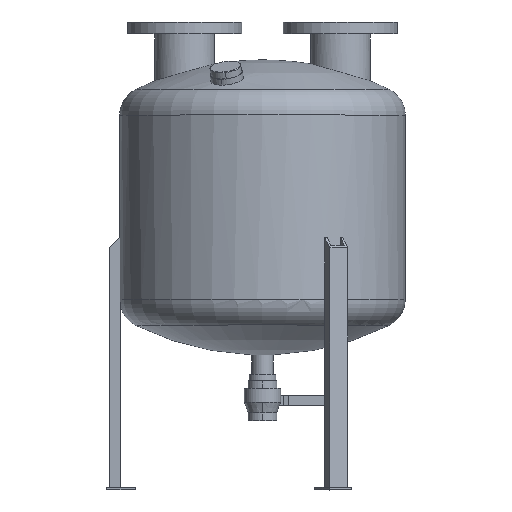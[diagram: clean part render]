
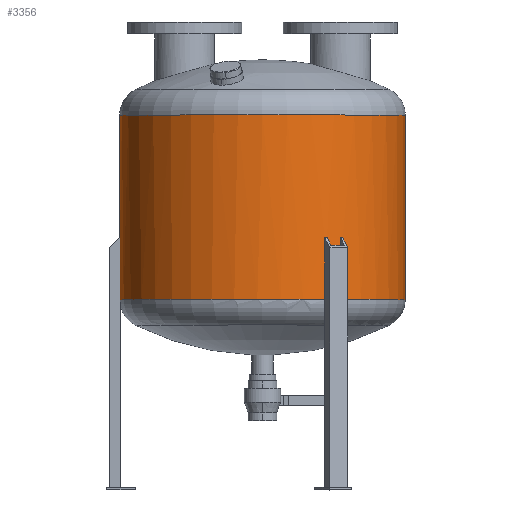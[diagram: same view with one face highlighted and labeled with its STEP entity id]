
A CAD part, top view. The second image highlights one B-rep face of the part: STEP entity #3356.
In plain terms, the highlighted cylindrical face has radius 275 mm (diameter 550 mm), a partial arc.
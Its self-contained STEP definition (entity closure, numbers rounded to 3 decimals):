
#41=CARTESIAN_POINT('',(154.456,366.194,227.526));
#48=CARTESIAN_POINT('',(-274.591,366.194,15.));
#63=CARTESIAN_POINT('',(119.815,366.194,247.526));
#76=CARTESIAN_POINT('',(124.305,366.194,245.302));
#78=CARTESIAN_POINT('',(150.286,366.194,230.302));
#84=CARTESIAN_POINT('',(0.,485.,0.));
#85=DIRECTION('',(0.,-1.,0.));
#86=DIRECTION('',(0.562,0.,0.827));
#87=AXIS2_PLACEMENT_3D('',#84,#85,#86);
#89=CARTESIAN_POINT('',(0.,366.194,0.));
#90=DIRECTION('',(0.,-1.,0.));
#91=DIRECTION('',(0.546,0.,0.837));
#92=AXIS2_PLACEMENT_3D('',#89,#90,#91);
#94=CARTESIAN_POINT('',(0.,485.,0.));
#95=DIRECTION('',(0.,-1.,0.));
#96=DIRECTION('',(0.452,0.,0.892));
#97=AXIS2_PLACEMENT_3D('',#94,#95,#96);
#99=CARTESIAN_POINT('',(0.,366.194,0.));
#100=DIRECTION('',(0.,-1.,0.));
#101=DIRECTION('',(0.436,0.,0.9));
#102=AXIS2_PLACEMENT_3D('',#99,#100,#101);
#104=CARTESIAN_POINT('',(0.,485.,0.));
#105=DIRECTION('',(0.,-1.,0.));
#106=DIRECTION('',(-0.997,0.,0.073));
#107=AXIS2_PLACEMENT_3D('',#104,#105,#106);
#109=CARTESIAN_POINT('',(0.,366.194,0.));
#110=DIRECTION('',(0.,-1.,0.));
#111=DIRECTION('',(-0.999,0.,0.055));
#112=AXIS2_PLACEMENT_3D('',#109,#110,#111);
#114=CARTESIAN_POINT('',(0.,366.194,0.));
#115=DIRECTION('',(0.,-1.,0.));
#116=DIRECTION('',(1.,0.,0.));
#117=AXIS2_PLACEMENT_3D('',#114,#115,#116);
#119=CARTESIAN_POINT('',(0.,721.424,0.));
#120=DIRECTION('',(0.,-1.,0.));
#121=DIRECTION('',(1.,0.,0.));
#122=AXIS2_PLACEMENT_3D('',#119,#120,#121);
#404=DIRECTION('',(0.,1.,0.));
#405=VECTOR('',#404,355.231);
#406=CARTESIAN_POINT('',(275.,366.194,0.));
#407=LINE('',#406,#405);
#408=DIRECTION('',(0.,1.,0.));
#409=VECTOR('',#408,355.231);
#410=CARTESIAN_POINT('',(-275.,366.194,0.));
#411=LINE('',#410,#409);
#1290=DIRECTION('',(0.,-1.,0.));
#1291=VECTOR('',#1290,118.806);
#1292=CARTESIAN_POINT('',(-274.272,485.,20.));
#1293=LINE('',#1292,#1291);
#1322=DIRECTION('',(0.,-1.,0.));
#1323=VECTOR('',#1322,118.806);
#1324=CARTESIAN_POINT('',(-274.591,485.,15.));
#1325=LINE('',#1324,#1323);
#1554=DIRECTION('',(0.,-1.,0.));
#1555=VECTOR('',#1554,118.806);
#1556=CARTESIAN_POINT('',(119.815,485.,247.526));
#1557=LINE('',#1556,#1555);
#1582=DIRECTION('',(0.,-1.,0.));
#1583=VECTOR('',#1582,118.806);
#1584=CARTESIAN_POINT('',(154.456,485.,227.526));
#1585=LINE('',#1584,#1583);
#1614=DIRECTION('',(0.,-1.,0.));
#1615=VECTOR('',#1614,118.806);
#1616=CARTESIAN_POINT('',(150.286,485.,230.302));
#1617=LINE('',#1616,#1615);
#1642=DIRECTION('',(0.,-1.,0.));
#1643=VECTOR('',#1642,118.806);
#1644=CARTESIAN_POINT('',(124.305,485.,245.302));
#1645=LINE('',#1644,#1643);
#2594=CARTESIAN_POINT('',(275.,366.194,0.));
#2595=VERTEX_POINT('',#2594);
#2596=CARTESIAN_POINT('',(275.,721.424,0.));
#2597=VERTEX_POINT('',#2596);
#2616=CARTESIAN_POINT('',(-275.,366.194,0.));
#2617=VERTEX_POINT('',#2616);
#2618=CARTESIAN_POINT('',(-275.,721.424,0.));
#2619=VERTEX_POINT('',#2618);
#2712=VERTEX_POINT('',#41);
#2713=VERTEX_POINT('',#78);
#2715=VERTEX_POINT('',#76);
#2716=VERTEX_POINT('',#63);
#2717=CARTESIAN_POINT('',(154.456,485.,227.526));
#2718=CARTESIAN_POINT('',(150.286,485.,230.302));
#2719=VERTEX_POINT('',#2717);
#2720=VERTEX_POINT('',#2718);
#2721=CARTESIAN_POINT('',(124.305,485.,245.302));
#2722=CARTESIAN_POINT('',(119.815,485.,247.526));
#2723=VERTEX_POINT('',#2721);
#2724=VERTEX_POINT('',#2722);
#2725=VERTEX_POINT('',#48);
#2727=CARTESIAN_POINT('',(-274.272,485.,20.));
#2728=CARTESIAN_POINT('',(-274.591,485.,15.));
#2729=VERTEX_POINT('',#2727);
#2730=VERTEX_POINT('',#2728);
#2731=CARTESIAN_POINT('',(-274.272,366.194,20.));
#2732=VERTEX_POINT('',#2731);
#3321=CARTESIAN_POINT('',(0.,859.65,0.));
#3322=DIRECTION('',(0.,-1.,0.));
#3323=DIRECTION('',(-1.,0.,0.));
#3324=AXIS2_PLACEMENT_3D('',#3321,#3322,#3323);
#3325=CYLINDRICAL_SURFACE('',#3324,275.);
#3327=ORIENTED_EDGE('',*,*,#3326,.T.);
#3329=ORIENTED_EDGE('',*,*,#3328,.T.);
#3330=ORIENTED_EDGE('',*,*,#3314,.T.);
#3332=ORIENTED_EDGE('',*,*,#3331,.F.);
#3334=ORIENTED_EDGE('',*,*,#3333,.T.);
#3336=ORIENTED_EDGE('',*,*,#3335,.T.);
#3337=ORIENTED_EDGE('',*,*,#3308,.T.);
#3339=ORIENTED_EDGE('',*,*,#3338,.F.);
#3341=ORIENTED_EDGE('',*,*,#3340,.T.);
#3343=ORIENTED_EDGE('',*,*,#3342,.T.);
#3344=ORIENTED_EDGE('',*,*,#3302,.T.);
#3346=ORIENTED_EDGE('',*,*,#3345,.T.);
#3348=ORIENTED_EDGE('',*,*,#3347,.F.);
#3350=ORIENTED_EDGE('',*,*,#3349,.F.);
#3351=ORIENTED_EDGE('',*,*,#3295,.T.);
#3353=ORIENTED_EDGE('',*,*,#3352,.F.);
#3354=EDGE_LOOP('',(#3327,#3329,#3330,#3332,#3334,#3336,#3337,#3339,#3341,#3343,
#3344,#3346,#3348,#3350,#3351,#3353));
#3355=FACE_OUTER_BOUND('',#3354,.F.);
#88=CIRCLE('',#87,275.);
#93=CIRCLE('',#92,275.);
#98=CIRCLE('',#97,275.);
#103=CIRCLE('',#102,275.);
#108=CIRCLE('',#107,275.);
#113=CIRCLE('',#112,275.);
#118=CIRCLE('',#117,275.);
#123=CIRCLE('',#122,275.);
#3295=EDGE_CURVE('',#2595,#2712,#118,.T.);
#3302=EDGE_CURVE('',#2725,#2617,#113,.T.);
#3308=EDGE_CURVE('',#2716,#2732,#103,.T.);
#3314=EDGE_CURVE('',#2713,#2715,#93,.T.);
#3326=EDGE_CURVE('',#2719,#2720,#88,.T.);
#3328=EDGE_CURVE('',#2720,#2713,#1617,.T.);
#3331=EDGE_CURVE('',#2723,#2715,#1645,.T.);
#3333=EDGE_CURVE('',#2723,#2724,#98,.T.);
#3335=EDGE_CURVE('',#2724,#2716,#1557,.T.);
#3338=EDGE_CURVE('',#2729,#2732,#1293,.T.);
#3340=EDGE_CURVE('',#2729,#2730,#108,.T.);
#3342=EDGE_CURVE('',#2730,#2725,#1325,.T.);
#3345=EDGE_CURVE('',#2617,#2619,#411,.T.);
#3347=EDGE_CURVE('',#2597,#2619,#123,.T.);
#3349=EDGE_CURVE('',#2595,#2597,#407,.T.);
#3352=EDGE_CURVE('',#2719,#2712,#1585,.T.);
#3356=ADVANCED_FACE('',(#3355),#3325,.T.);
